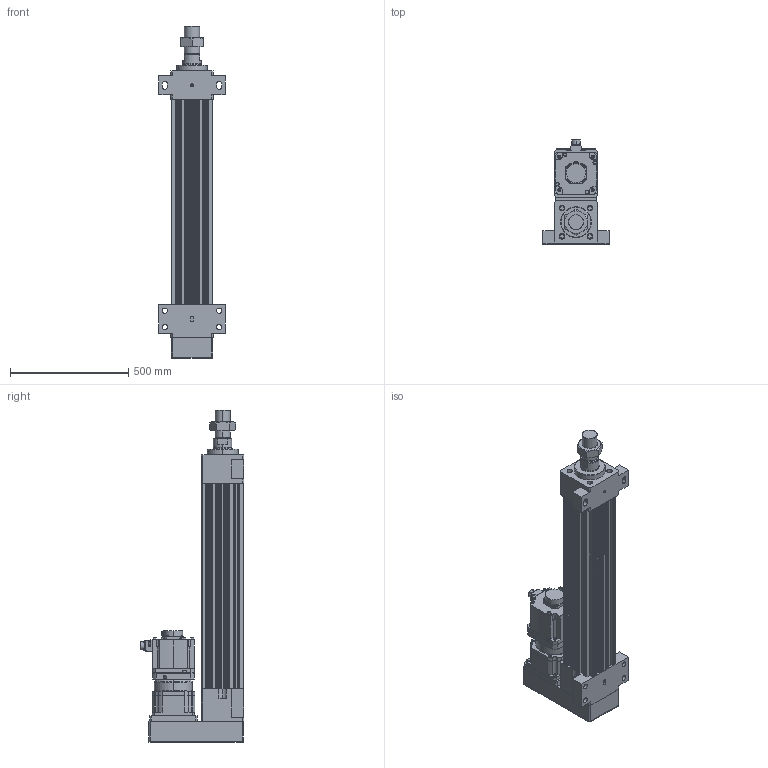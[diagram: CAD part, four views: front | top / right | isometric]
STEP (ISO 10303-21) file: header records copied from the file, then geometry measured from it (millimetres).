
FILE_DESCRIPTION (( 'STEP AP203' ), '1' );
FILE_NAME ('HES180HS-P550-W050G00-M-FFB.STEP', '2023-02-01T06:45:34', ( 'tms' ), ( '' ), 'SwSTEP 2.0', 'SolidWorks 2013', '' );
FILE_SCHEMA (( 'CONFIG_CONTROL_DESIGN' ));
Length unit declared in the file: millimetre
Products named in the file (9): HG-SR502; HES180 ROD M ST550; AB180-003[HG-SR702B]; AB1801; HES180-P550-G180-FFB; P0403600401; P1301600001; M64X2.0P; HES180HS-P550-W050G00-M-FFB
Assembly tree (8 placements, depth 3):
  HES180HS-P550-W050G00-M-FFB
    HES180-P550-G180-FFB
    HES180 ROD M ST550
    M64X2.0P
    AB180-003[HG-SR702B]
      AB1801
      P1301600001
      P0403600401
    HG-SR502
Bounding box: 280 x 438.85 x 1402 mm (x, y, z)
Volume: 30992294.2 mm3; surface area: 2723243.4 mm2
Topology: 4 solids, 19 shells, 1446 faces, 3761 edges, 2443 vertices
Faces by surface type: cylinder 668, plane 567, cone 144, bspline 63, torus 4
Entity records: 53114 total; most frequent: CARTESIAN_POINT 16078, DIRECTION 7777, ORIENTED_EDGE 7426, EDGE_CURVE 3737, AXIS2_PLACEMENT_3D 2922, VERTEX_POINT 2443, VECTOR 1933, LINE 1933
